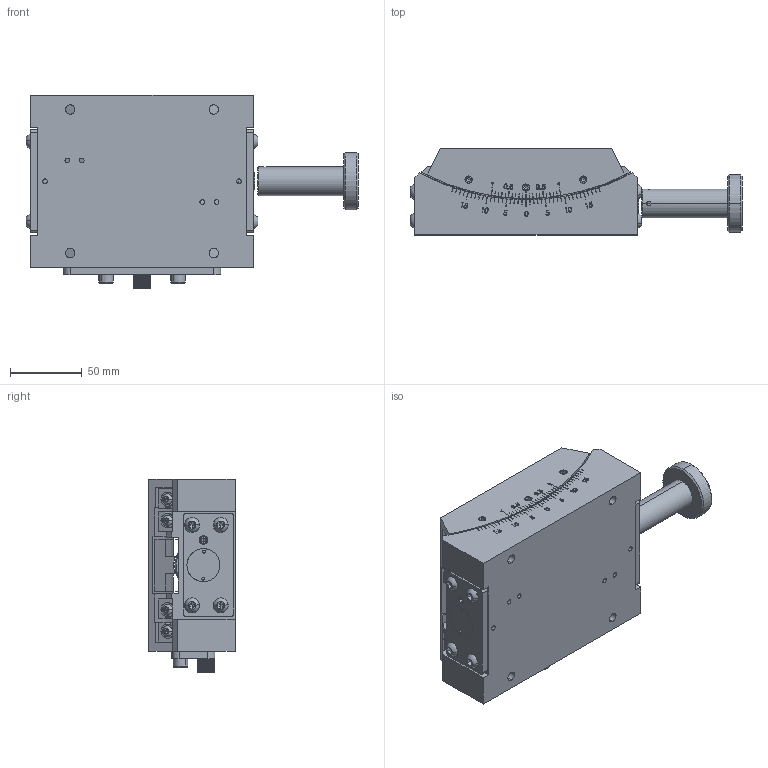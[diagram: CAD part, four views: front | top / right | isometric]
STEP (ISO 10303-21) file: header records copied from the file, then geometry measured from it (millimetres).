
FILE_DESCRIPTION (( 'STEP AP203' ), '1' );
FILE_NAME ('7SGM0315-0褒弇怢.STEP', '2019-03-12T01:42:34', ( '' ), ( '' ), 'SwSTEP 2.0', 'SolidWorks 2014', '' );
FILE_SCHEMA (( 'CONFIG_CONTROL_DESIGN' ));
Length unit declared in the file: millimetre
Products named in the file (1): 7SGM0315-0褒弇怢
Bounding box: 231.3 x 60 x 135 mm (x, y, z)
Surface area: 157082.5 mm2 (no closed solid volume)
Topology: 0 solids, 57 shells, 936 faces, 3250 edges, 2263 vertices
Faces by surface type: plane 532, cylinder 281, bspline 40, cone 39, sphere 32, torus 12
Entity records: 41118 total; most frequent: CARTESIAN_POINT 13367, DIRECTION 5776, ORIENTED_EDGE 5101, EDGE_CURVE 3238, VERTEX_POINT 2263, LINE 1952, VECTOR 1952, AXIS2_PLACEMENT_3D 1912
